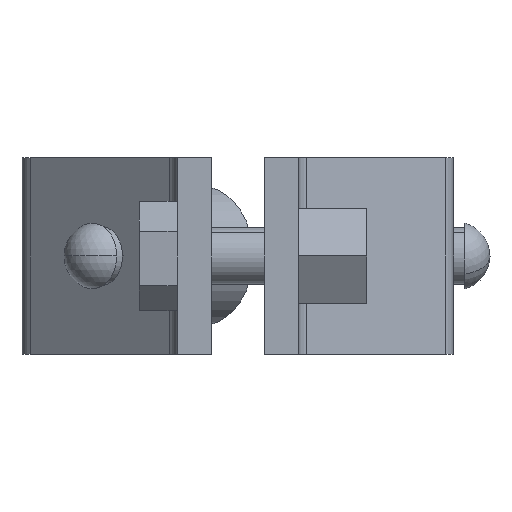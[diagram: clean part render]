
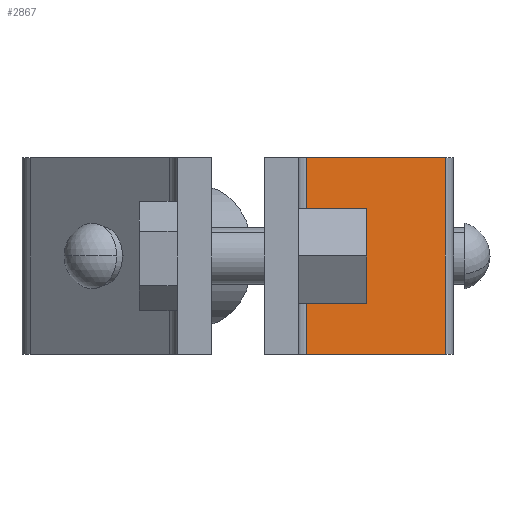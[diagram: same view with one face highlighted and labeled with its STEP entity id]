
A CAD part, left-side view. The second image highlights one B-rep face of the part: STEP entity #2867.
In plain terms, the highlighted planar face has unit normal (-0.751, -0.66, 0) as drawn and (-0.751, 0.66, 0) by its records, which use the part's own axes.
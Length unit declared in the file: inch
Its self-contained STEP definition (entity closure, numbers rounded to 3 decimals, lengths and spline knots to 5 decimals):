
#12 = DIRECTION ( 'NONE',  ( 0., 0., 1. ) ) ;
#24 = CARTESIAN_POINT ( 'NONE',  ( 0.6695, 0.177, 0. ) ) ;
#77 = PLANE ( 'NONE',  #2157 ) ;
#94 = CARTESIAN_POINT ( 'NONE',  ( 0.6695, 0.177, -1.024 ) ) ;
#278 = CARTESIAN_POINT ( 'NONE',  ( 0.70684, 0.21953, 0. ) ) ;
#280 = EDGE_CURVE ( 'NONE', #3145, #883, #897, .T. ) ;
#584 = CARTESIAN_POINT ( 'NONE',  ( 0.70684, 0.21953, 0. ) ) ;
#585 = VECTOR ( 'NONE', #12, 39.37008 ) ;
#593 = CARTESIAN_POINT ( 'NONE',  ( 1.34066, 0.94147, -1.024 ) ) ;
#597 = FACE_OUTER_BOUND ( 'NONE', #1439, .T. ) ;
#648 = DIRECTION ( 'NONE',  ( -0.66, -0.751, 0. ) ) ;
#797 = ORIENTED_EDGE ( 'NONE', *, *, #280, .T. ) ;
#883 = VERTEX_POINT ( 'NONE', #1603 ) ;
#897 = LINE ( 'NONE', #593, #2744 ) ;
#980 = CARTESIAN_POINT ( 'NONE',  ( 0.6695, 0.177, -1.024 ) ) ;
#999 = LINE ( 'NONE', #980, #3163 ) ;
#1016 = DIRECTION ( 'NONE',  ( -0.66, -0.751, 0. ) ) ;
#1076 = CARTESIAN_POINT ( 'NONE',  ( 0.70684, 0.21953, -1.024 ) ) ;
#1439 = EDGE_LOOP ( 'NONE', ( #2105, #797, #2454, #2022 ) ) ;
#1495 = EDGE_CURVE ( 'NONE', #1654, #1745, #2125, .T. ) ;
#1603 = CARTESIAN_POINT ( 'NONE',  ( 1.34066, 0.94147, -1.024 ) ) ;
#1654 = VERTEX_POINT ( 'NONE', #1076 ) ;
#1745 = VERTEX_POINT ( 'NONE', #584 ) ;
#2017 = EDGE_CURVE ( 'NONE', #883, #1654, #999, .T. ) ;
#2022 = ORIENTED_EDGE ( 'NONE', *, *, #1495, .T. ) ;
#2105 = ORIENTED_EDGE ( 'NONE', *, *, #2769, .F. ) ;
#2125 = LINE ( 'NONE', #278, #585 ) ;
#2157 = AXIS2_PLACEMENT_3D ( 'NONE', #94, #2344, #648 ) ;
#2238 = LINE ( 'NONE', #24, #2415 ) ;
#2344 = DIRECTION ( 'NONE',  ( -0.751, 0.66, 0. ) ) ;
#2415 = VECTOR ( 'NONE', #1016, 39.37008 ) ;
#2454 = ORIENTED_EDGE ( 'NONE', *, *, #2017, .T. ) ;
#2744 = VECTOR ( 'NONE', #3040, 39.37008 ) ;
#2769 = EDGE_CURVE ( 'NONE', #3145, #1745, #2238, .T. ) ;
#2867 = ADVANCED_FACE ( 'NONE', ( #597 ), #77, .T. ) ;
#2943 = DIRECTION ( 'NONE',  ( -0.66, -0.751, 0. ) ) ;
#2978 = CARTESIAN_POINT ( 'NONE',  ( 1.34066, 0.94147, 0. ) ) ;
#3040 = DIRECTION ( 'NONE',  ( 0., 0., -1. ) ) ;
#3145 = VERTEX_POINT ( 'NONE', #2978 ) ;
#3163 = VECTOR ( 'NONE', #2943, 39.37008 ) ;
